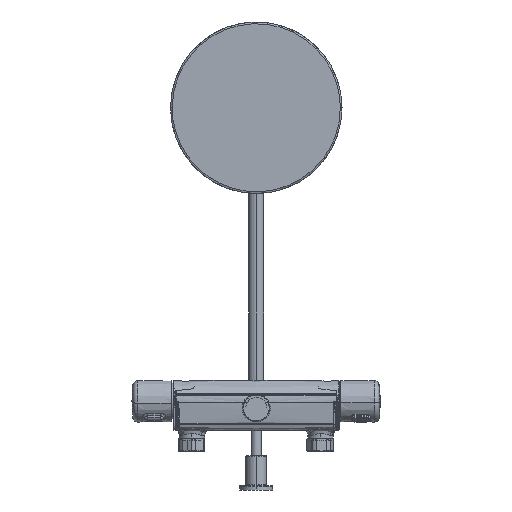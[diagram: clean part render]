
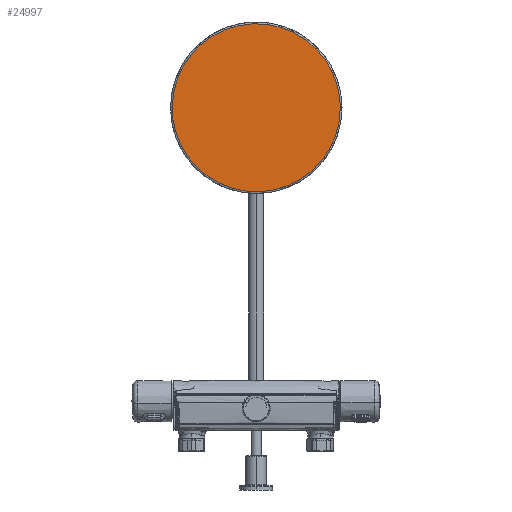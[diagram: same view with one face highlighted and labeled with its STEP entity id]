
A CAD part, front view. The second image highlights one B-rep face of the part: STEP entity #24997.
In plain terms, the highlighted planar face has unit normal (0, -1, 0).
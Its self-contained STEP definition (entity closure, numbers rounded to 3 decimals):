
#580 = CARTESIAN_POINT ( 'NONE',  ( -94.866, 984.9, 324.59 ) ) ;
#668 = CARTESIAN_POINT ( 'NONE',  ( 97.368, 984.9, 337.172 ) ) ;
#840 = CARTESIAN_POINT ( 'NONE',  ( -85.048, 984.9, 300.887 ) ) ;
#1122 = CARTESIAN_POINT ( 'NONE',  ( -12.828, 984.9, 447.368 ) ) ;
#1562 = CARTESIAN_POINT ( 'NONE',  ( 73.832, 984.9, 414.761 ) ) ;
#2582 = CARTESIAN_POINT ( 'NONE',  ( -25.41, 984.9, 255.134 ) ) ;
#2672 = CARTESIAN_POINT ( 'NONE',  ( 77.921, 984.9, 290.221 ) ) ;
#2845 = CARTESIAN_POINT ( 'NONE',  ( 59.779, 984.9, 272.079 ) ) ;
#2924 = CARTESIAN_POINT ( 'NONE',  ( -59.779, 984.9, 272.079 ) ) ;
#2942 = CARTESIAN_POINT ( 'NONE',  ( -49.113, 984.9, 435.048 ) ) ;
#3120 = CARTESIAN_POINT ( 'NONE',  ( -31.577, 984.9, 442.995 ) ) ;
#3212 = CARTESIAN_POINT ( 'NONE',  ( -94.866, 984.9, 375.41 ) ) ;
#3297 = CARTESIAN_POINT ( 'NONE',  ( -64.761, 984.9, 423.832 ) ) ;
#4660 = CARTESIAN_POINT ( 'NONE',  ( 88.086, 984.9, 306.571 ) ) ;
#4830 = CARTESIAN_POINT ( 'NONE',  ( 98., 984.9, 343.586 ) ) ;
#4922 = CARTESIAN_POINT ( 'NONE',  ( 49.113, 984.9, 264.952 ) ) ;
#4938 = CARTESIAN_POINT ( 'NONE',  ( -98., 984.9, 350. ) ) ;
#5021 = CARTESIAN_POINT ( 'NONE',  ( -25.41, 984.9, 444.866 ) ) ;
#5067 = CARTESIAN_POINT ( 'NONE',  ( 0., 984.9, 350. ) ) ;
#5207 = CARTESIAN_POINT ( 'NONE',  ( 64.761, 984.9, 423.832 ) ) ;
#5294 = CARTESIAN_POINT ( 'NONE',  ( -85.048, 984.9, 399.113 ) ) ;
#5466 = CARTESIAN_POINT ( 'NONE',  ( 77.921, 984.9, 409.779 ) ) ;
#6788 = CARTESIAN_POINT ( 'NONE',  ( 73.832, 984.9, 285.239 ) ) ;
#6879 = CARTESIAN_POINT ( 'NONE',  ( -6.414, 984.9, 252. ) ) ;
#6962 = CARTESIAN_POINT ( 'NONE',  ( -64.761, 984.9, 276.168 ) ) ;
#7517 = CARTESIAN_POINT ( 'NONE',  ( 85.048, 984.9, 399.113 ) ) ;
#8480 = ORIENTED_EDGE ( 'NONE', *, *, #9568, .F. ) ;
#8820 = CARTESIAN_POINT ( 'NONE',  ( 64.761, 984.9, 276.168 ) ) ;
#9011 = CARTESIAN_POINT ( 'NONE',  ( -43.429, 984.9, 438.086 ) ) ;
#9048 = PLANE ( 'NONE',  #23821 ) ;
#9185 = CARTESIAN_POINT ( 'NONE',  ( 31.577, 984.9, 442.995 ) ) ;
#9568 = EDGE_CURVE ( 'NONE', #20876, #14815, #21037, .T. ) ;
#9624 = CARTESIAN_POINT ( 'NONE',  ( 94.866, 984.9, 375.41 ) ) ;
#10586 = CARTESIAN_POINT ( 'NONE',  ( -77.921, 984.9, 290.221 ) ) ;
#10845 = CARTESIAN_POINT ( 'NONE',  ( 12.828, 984.9, 252.632 ) ) ;
#10934 = CARTESIAN_POINT ( 'NONE',  ( 98., 984.9, 350. ) ) ;
#11030 = CARTESIAN_POINT ( 'NONE',  ( -88.086, 984.9, 393.429 ) ) ;
#11195 = CARTESIAN_POINT ( 'NONE',  ( 98., 984.9, 350. ) ) ;
#12787 = CARTESIAN_POINT ( 'NONE',  ( -73.832, 984.9, 285.239 ) ) ;
#12876 = CARTESIAN_POINT ( 'NONE',  ( -43.429, 984.9, 261.914 ) ) ;
#13164 = CARTESIAN_POINT ( 'NONE',  ( -77.921, 984.9, 409.779 ) ) ;
#13299 = DIRECTION ( 'NONE',  ( 0., 1., 0. ) ) ;
#14594 = EDGE_LOOP ( 'NONE', ( #8480, #14850 ) ) ;
#14661 = CARTESIAN_POINT ( 'NONE',  ( 92.995, 984.9, 318.423 ) ) ;
#14815 = VERTEX_POINT ( 'NONE', #16943 ) ;
#14831 = CARTESIAN_POINT ( 'NONE',  ( -88.086, 984.9, 306.571 ) ) ;
#14850 = ORIENTED_EDGE ( 'NONE', *, *, #24536, .F. ) ;
#14995 = CARTESIAN_POINT ( 'NONE',  ( 31.577, 984.9, 257.005 ) ) ;
#15013 = CARTESIAN_POINT ( 'NONE',  ( -73.832, 984.9, 414.761 ) ) ;
#15184 = CARTESIAN_POINT ( 'NONE',  ( -6.414, 984.9, 448. ) ) ;
#15375 = CARTESIAN_POINT ( 'NONE',  ( -92.995, 984.9, 381.577 ) ) ;
#16090 = B_SPLINE_CURVE_WITH_KNOTS ( 'NONE', 3,
 ( #4938, #25375, #19304, #3212, #15375, #11030, #5294, #13164, #15013, #3297, #17110, #2942, #9011, #3120, #5021, #1122, #15184, #17203, #19220, #21267, #9185, #23258, #25293, #17295, #5207, #1562, #5466, #7517, #25547, #23533, #9624, #21691, #25721, #23877 ),
 .UNSPECIFIED., .F., .F.,
 ( 4, 2, 2, 2, 2, 2, 2, 2, 2, 2, 2, 2, 2, 2, 2, 2, 4 ),
 ( 0.5, 0.531, 0.563, 0.594, 0.625, 0.656, 0.688, 0.719, 0.75, 0.781, 0.813, 0.844, 0.875, 0.906, 0.938, 0.969, 1. ),
 .UNSPECIFIED. ) ;
#16741 = CARTESIAN_POINT ( 'NONE',  ( -12.828, 984.9, 252.632 ) ) ;
#16918 = CARTESIAN_POINT ( 'NONE',  ( 43.429, 984.9, 261.914 ) ) ;
#16943 = CARTESIAN_POINT ( 'NONE',  ( -98., 984.9, 350. ) ) ;
#17009 = CARTESIAN_POINT ( 'NONE',  ( -92.995, 984.9, 318.423 ) ) ;
#17110 = CARTESIAN_POINT ( 'NONE',  ( -59.779, 984.9, 427.921 ) ) ;
#17203 = CARTESIAN_POINT ( 'NONE',  ( 6.414, 984.9, 448. ) ) ;
#17295 = CARTESIAN_POINT ( 'NONE',  ( 59.779, 984.9, 427.921 ) ) ;
#18751 = CARTESIAN_POINT ( 'NONE',  ( -98., 984.9, 343.586 ) ) ;
#18934 = CARTESIAN_POINT ( 'NONE',  ( -98., 984.9, 350. ) ) ;
#19024 = CARTESIAN_POINT ( 'NONE',  ( -97.368, 984.9, 337.172 ) ) ;
#19220 = CARTESIAN_POINT ( 'NONE',  ( 12.828, 984.9, 447.368 ) ) ;
#19304 = CARTESIAN_POINT ( 'NONE',  ( -97.368, 984.9, 362.828 ) ) ;
#20280 = FACE_OUTER_BOUND ( 'NONE', #14594, .T. ) ;
#20805 = CARTESIAN_POINT ( 'NONE',  ( -49.113, 984.9, 264.952 ) ) ;
#20876 = VERTEX_POINT ( 'NONE', #11195 ) ;
#20885 = CARTESIAN_POINT ( 'NONE',  ( 25.41, 984.9, 255.134 ) ) ;
#21037 = B_SPLINE_CURVE_WITH_KNOTS ( 'NONE', 3,
 ( #10934, #4830, #668, #22977, #14661, #4660, #22888, #2672, #6788, #8820, #2845, #4922, #16918, #14995, #20885, #10845, #25014, #6879, #16741, #2582, #24831, #12876, #20805, #2924, #6962, #12787, #10586, #840, #14831, #17009, #580, #19024, #18751, #18934 ),
 .UNSPECIFIED., .F., .F.,
 ( 4, 2, 2, 2, 2, 2, 2, 2, 2, 2, 2, 2, 2, 2, 2, 2, 4 ),
 ( 0., 0.031, 0.063, 0.094, 0.125, 0.156, 0.188, 0.219, 0.25, 0.281, 0.313, 0.344, 0.375, 0.406, 0.438, 0.469, 0.5 ),
 .UNSPECIFIED. ) ;
#21212 = DIRECTION ( 'NONE',  ( 1., 0., 0. ) ) ;
#21267 = CARTESIAN_POINT ( 'NONE',  ( 25.41, 984.9, 444.866 ) ) ;
#21691 = CARTESIAN_POINT ( 'NONE',  ( 97.368, 984.9, 362.828 ) ) ;
#22888 = CARTESIAN_POINT ( 'NONE',  ( 85.048, 984.9, 300.887 ) ) ;
#22977 = CARTESIAN_POINT ( 'NONE',  ( 94.866, 984.9, 324.59 ) ) ;
#23258 = CARTESIAN_POINT ( 'NONE',  ( 43.429, 984.9, 438.086 ) ) ;
#23533 = CARTESIAN_POINT ( 'NONE',  ( 92.995, 984.9, 381.577 ) ) ;
#23821 = AXIS2_PLACEMENT_3D ( 'NONE', #5067, #13299, #21212 ) ;
#23877 = CARTESIAN_POINT ( 'NONE',  ( 98., 984.9, 350. ) ) ;
#24536 = EDGE_CURVE ( 'NONE', #14815, #20876, #16090, .T. ) ;
#24831 = CARTESIAN_POINT ( 'NONE',  ( -31.577, 984.9, 257.005 ) ) ;
#24997 = ADVANCED_FACE ( 'NONE', ( #20280 ), #9048, .F. ) ;
#25014 = CARTESIAN_POINT ( 'NONE',  ( 6.414, 984.9, 252. ) ) ;
#25293 = CARTESIAN_POINT ( 'NONE',  ( 49.113, 984.9, 435.048 ) ) ;
#25375 = CARTESIAN_POINT ( 'NONE',  ( -98., 984.9, 356.414 ) ) ;
#25547 = CARTESIAN_POINT ( 'NONE',  ( 88.086, 984.9, 393.429 ) ) ;
#25721 = CARTESIAN_POINT ( 'NONE',  ( 98., 984.9, 356.414 ) ) ;
